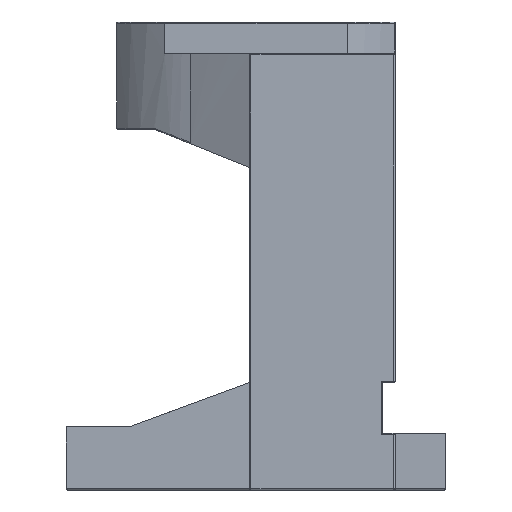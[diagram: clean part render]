
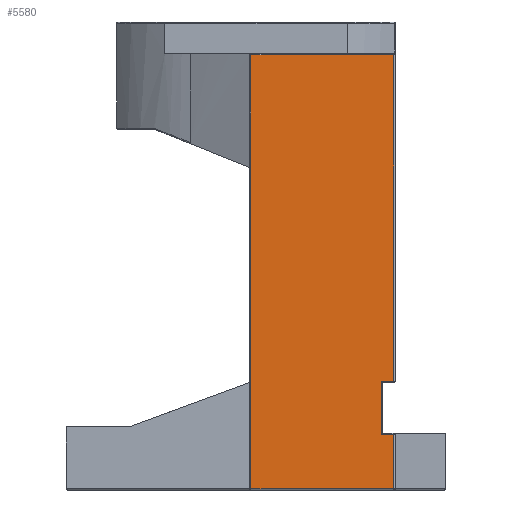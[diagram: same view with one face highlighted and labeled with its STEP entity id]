
A CAD part, left-side view. The second image highlights one B-rep face of the part: STEP entity #5580.
In plain terms, the highlighted planar face has unit normal (-1, 0, 0).
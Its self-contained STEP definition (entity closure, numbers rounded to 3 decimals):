
#45 = EDGE_LOOP ( 'NONE', ( #3673, #2125, #3108, #1495, #4033, #2555, #902, #5581 ) ) ;
#90 = LINE ( 'NONE', #2221, #2943 ) ;
#152 = DIRECTION ( 'NONE',  ( 0., 0., 1. ) ) ;
#223 = EDGE_CURVE ( 'NONE', #1501, #1630, #4324, .T. ) ;
#434 = VECTOR ( 'NONE', #3302, 1000. ) ;
#665 = VECTOR ( 'NONE', #5045, 1000. ) ;
#799 = CARTESIAN_POINT ( 'NONE',  ( -32.5, 0.8, -4.8 ) ) ;
#902 = ORIENTED_EDGE ( 'NONE', *, *, #3997, .T. ) ;
#973 = VECTOR ( 'NONE', #2041, 1000. ) ;
#1079 = EDGE_CURVE ( 'NONE', #5344, #5733, #90, .T. ) ;
#1244 = VECTOR ( 'NONE', #152, 1000. ) ;
#1256 = CARTESIAN_POINT ( 'NONE',  ( -32.5, -21.8, -4.8 ) ) ;
#1432 = EDGE_CURVE ( 'NONE', #1719, #1883, #5621, .T. ) ;
#1495 = ORIENTED_EDGE ( 'NONE', *, *, #1432, .T. ) ;
#1501 = VERTEX_POINT ( 'NONE', #4165 ) ;
#1578 = FACE_OUTER_BOUND ( 'NONE', #45, .T. ) ;
#1630 = VERTEX_POINT ( 'NONE', #5527 ) ;
#1698 = DIRECTION ( 'NONE',  ( 0., 1., 0. ) ) ;
#1719 = VERTEX_POINT ( 'NONE', #799 ) ;
#1737 = CARTESIAN_POINT ( 'NONE',  ( -32.5, -19.8, 12.2 ) ) ;
#1768 = CARTESIAN_POINT ( 'NONE',  ( -32.5, -21.8, 12.2 ) ) ;
#1787 = CARTESIAN_POINT ( 'NONE',  ( -32.5, -22., 63.8 ) ) ;
#1792 = VERTEX_POINT ( 'NONE', #1737 ) ;
#1864 = DIRECTION ( 'NONE',  ( 0., 1., 0. ) ) ;
#1883 = VERTEX_POINT ( 'NONE', #1256 ) ;
#1974 = CARTESIAN_POINT ( 'NONE',  ( -32.5, -19.8, 3.8 ) ) ;
#2041 = DIRECTION ( 'NONE',  ( 0., 0., -1. ) ) ;
#2125 = ORIENTED_EDGE ( 'NONE', *, *, #223, .T. ) ;
#2208 = CARTESIAN_POINT ( 'NONE',  ( -32.5, 0.8, -5. ) ) ;
#2215 = EDGE_CURVE ( 'NONE', #1792, #6085, #5060, .T. ) ;
#2221 = CARTESIAN_POINT ( 'NONE',  ( -32.5, -20., 3.8 ) ) ;
#2413 = EDGE_CURVE ( 'NONE', #1883, #5344, #2570, .T. ) ;
#2464 = LINE ( 'NONE', #2208, #973 ) ;
#2527 = CARTESIAN_POINT ( 'NONE',  ( -32.5, -21.8, 4. ) ) ;
#2555 = ORIENTED_EDGE ( 'NONE', *, *, #1079, .T. ) ;
#2570 = LINE ( 'NONE', #2527, #5972 ) ;
#2640 = DIRECTION ( 'NONE',  ( 0., 0., 1. ) ) ;
#2819 = LINE ( 'NONE', #5115, #1244 ) ;
#2943 = VECTOR ( 'NONE', #1864, 1000. ) ;
#3027 = AXIS2_PLACEMENT_3D ( 'NONE', #3221, #3170, #3145 ) ;
#3108 = ORIENTED_EDGE ( 'NONE', *, *, #5013, .T. ) ;
#3126 = CARTESIAN_POINT ( 'NONE',  ( -32.5, -22., 12.2 ) ) ;
#3145 = DIRECTION ( 'NONE',  ( 0., 1., 0. ) ) ;
#3170 = DIRECTION ( 'NONE',  ( -1., 0., 0. ) ) ;
#3221 = CARTESIAN_POINT ( 'NONE',  ( -32.5, -22., 64. ) ) ;
#3286 = PLANE ( 'NONE',  #3027 ) ;
#3302 = DIRECTION ( 'NONE',  ( 0., -1., 0. ) ) ;
#3363 = CARTESIAN_POINT ( 'NONE',  ( -32.5, -22., -4.8 ) ) ;
#3673 = ORIENTED_EDGE ( 'NONE', *, *, #4388, .T. ) ;
#3997 = EDGE_CURVE ( 'NONE', #5733, #1792, #4271, .T. ) ;
#4033 = ORIENTED_EDGE ( 'NONE', *, *, #2413, .T. ) ;
#4059 = CARTESIAN_POINT ( 'NONE',  ( -32.5, -19.8, 12. ) ) ;
#4108 = VECTOR ( 'NONE', #4124, 1000. ) ;
#4124 = DIRECTION ( 'NONE',  ( 0., 0., 1. ) ) ;
#4165 = CARTESIAN_POINT ( 'NONE',  ( -32.5, -21.8, 63.8 ) ) ;
#4171 = VECTOR ( 'NONE', #1698, 1000. ) ;
#4271 = LINE ( 'NONE', #4059, #4108 ) ;
#4324 = LINE ( 'NONE', #1787, #4171 ) ;
#4388 = EDGE_CURVE ( 'NONE', #6085, #1501, #2819, .T. ) ;
#5009 = CARTESIAN_POINT ( 'NONE',  ( -32.5, -21.8, 3.8 ) ) ;
#5013 = EDGE_CURVE ( 'NONE', #1630, #1719, #2464, .T. ) ;
#5045 = DIRECTION ( 'NONE',  ( 0., -1., 0. ) ) ;
#5060 = LINE ( 'NONE', #3126, #665 ) ;
#5115 = CARTESIAN_POINT ( 'NONE',  ( -32.5, -21.8, 64. ) ) ;
#5344 = VERTEX_POINT ( 'NONE', #5009 ) ;
#5527 = CARTESIAN_POINT ( 'NONE',  ( -32.5, 0.8, 63.8 ) ) ;
#5580 = ADVANCED_FACE ( 'NONE', ( #1578 ), #3286, .T. ) ;
#5581 = ORIENTED_EDGE ( 'NONE', *, *, #2215, .T. ) ;
#5621 = LINE ( 'NONE', #3363, #434 ) ;
#5733 = VERTEX_POINT ( 'NONE', #1974 ) ;
#5972 = VECTOR ( 'NONE', #2640, 1000. ) ;
#6085 = VERTEX_POINT ( 'NONE', #1768 ) ;
